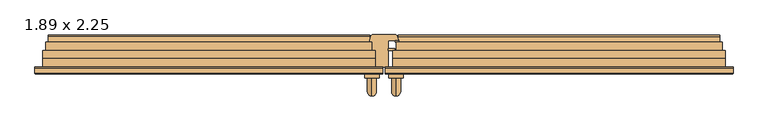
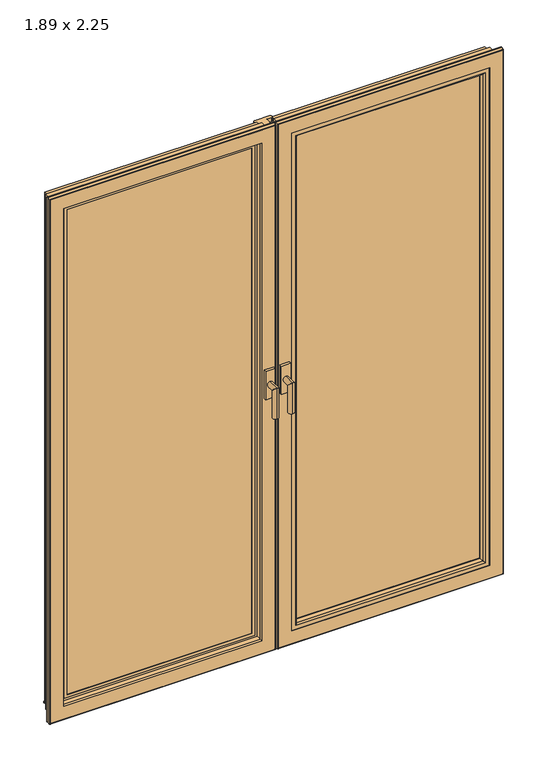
"""IFC4 building model written with IfcOpenShell, lengths in millimetres: door geometry, doorsgealans9000double-vent-door : 1.89 x 2.25."""

from ifc_helpers import new_model, si_unit, point, frame, frame_2d, origin, place, context, project, spatial, polyline, circle_curve, ellipse_curve, trimmed, segment, composite_curve, outline, extrude, source, transform, mapped, element, save
from ifc_brep_helpers import plane_surface, cylinder_surface, advanced_brep


def door_1_89_x_2_25_47e92b67(model_context):
    return source(origin(), model_context, "Body", "SolidModel", [
        advanced_brep(
        [(31.0, -114.6409817, 1146.5), (31.0, -114.6409817, 1123.5), (31.0, -161.1409817, 1146.5), (31.0, -138.1409817, 1123.5), (31.0, -161.1409817, 1018.0), (31.0, -138.1409817, 1018.0)],
        [
            (0, 1, circle_curve(frame((31.0, -114.6409817, 1135.0), z_axis=(0.0, 1.0, 0.0), x_axis=(0.0, 0.0, -1.0)), 11.5)),
            (1, 0, circle_curve(frame((31.0, -114.6409817, 1135.0), z_axis=(0.0, 1.0, 0.0), x_axis=(0.0, 0.0, -1.0)), 11.5)),
            (0, 2),
            (2, 3, ellipse_curve(frame((31.0, -149.6409817, 1135.0), z_axis=(0.0, 0.7071067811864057, 0.7071067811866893), x_axis=(0.0, 0.7071067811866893, -0.7071067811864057)), 16.263456, 11.5)),
            (3, 1),
            (3, 2, ellipse_curve(frame((31.0, -149.6409817, 1135.0), z_axis=(0.0, 0.7071067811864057, 0.7071067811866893), x_axis=(0.0, 0.7071067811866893, -0.7071067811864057)), 16.263456, 11.5)),
            (4, 5, circle_curve(frame((31.0, -149.6409817, 1018.0), z_axis=(0.0, 0.0, -1.0), x_axis=(0.0, 1.0, 0.0)), 11.5)),
            (5, 4, circle_curve(frame((31.0, -149.6409817, 1018.0), z_axis=(0.0, 0.0, -1.0), x_axis=(0.0, 1.0, 0.0)), 11.5)),
            (2, 4),
            (5, 3),
        ],
        [
            plane_surface(frame((31.0, -114.6409817, 1135.0), z_axis=(0.0, 1.0, 0.0), x_axis=(1.0, 0.0, 0.0))),
            cylinder_surface(frame((31.0, -114.6409817, 1135.0), z_axis=(0.0, 1.0, 0.0), x_axis=(0.0, 0.0, -1.0)), 11.5),
            plane_surface(frame((31.0, -149.6409817, 1018.0), z_axis=(0.0, 0.0, -1.0), x_axis=(1.0, 0.0, 0.0))),
            cylinder_surface(frame((31.0, -149.6409817, 1135.0), z_axis=(0.0, 0.0, 1.0), x_axis=(0.0, 1.0, 0.0)), 11.5),
        ],
        [
            (0, [[1, 2]]),
            (1, [[-1, 3, 4, 5]]),
            (1, [[-2, -5, 6, -3]]),
            (2, [[7, 8]]),
            (3, [[-4, 9, -8, 10]]),
            (3, [[-6, -10, -7, -9]]),
        ],
    ),
        extrude(outline(polyline([(49.5, -104.6409817), (49.5, -114.6409817), (12.5, -114.6409817), (12.5, -104.6409817), (49.5, -104.6409817)])), frame((0.0, 0.0, 1076.0), z_axis=(0.0, 0.0, 1.0), x_axis=(1.0, 0.0, 0.0)), (0.0, 0.0, 1.0), 118.0),
        advanced_brep(
        [(-31.0, -114.6409817, 1146.5), (-31.0, -114.6409817, 1123.5), (-31.0, -161.1409817, 1146.5), (-31.0, -138.1409817, 1123.5), (-31.0, -161.1409817, 1018.0), (-31.0, -138.1409817, 1018.0)],
        [
            (0, 1, circle_curve(frame((-31.0, -114.6409817, 1135.0), z_axis=(0.0, 1.0, 0.0), x_axis=(0.0, 0.0, -1.0)), 11.5)),
            (1, 0, circle_curve(frame((-31.0, -114.6409817, 1135.0), z_axis=(0.0, 1.0, 0.0), x_axis=(0.0, 0.0, -1.0)), 11.5)),
            (0, 2),
            (2, 3, ellipse_curve(frame((-31.0, -149.6409817, 1135.0), z_axis=(0.0, 0.7071067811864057, 0.7071067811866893), x_axis=(0.0, 0.7071067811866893, -0.7071067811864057)), 16.263456, 11.5)),
            (3, 1),
            (3, 2, ellipse_curve(frame((-31.0, -149.6409817, 1135.0), z_axis=(0.0, 0.7071067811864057, 0.7071067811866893), x_axis=(0.0, 0.7071067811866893, -0.7071067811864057)), 16.263456, 11.5)),
            (4, 5, circle_curve(frame((-31.0, -149.6409817, 1018.0), z_axis=(0.0, 0.0, -1.0), x_axis=(0.0, 1.0, 0.0)), 11.5)),
            (5, 4, circle_curve(frame((-31.0, -149.6409817, 1018.0), z_axis=(0.0, 0.0, -1.0), x_axis=(0.0, 1.0, 0.0)), 11.5)),
            (2, 4),
            (5, 3),
        ],
        [
            plane_surface(frame((-31.0, -114.6409817, 1135.0), z_axis=(0.0, 1.0, 0.0), x_axis=(1.0, 0.0, 0.0))),
            cylinder_surface(frame((-31.0, -114.6409817, 1135.0), z_axis=(0.0, 1.0, 0.0), x_axis=(0.0, 0.0, -1.0)), 11.5),
            plane_surface(frame((-31.0, -149.6409817, 1018.0), z_axis=(0.0, 0.0, -1.0), x_axis=(1.0, 0.0, 0.0))),
            cylinder_surface(frame((-31.0, -149.6409817, 1135.0), z_axis=(0.0, 0.0, 1.0), x_axis=(0.0, 1.0, 0.0)), 11.5),
        ],
        [
            (0, [[1, 2]]),
            (1, [[-1, 3, 4, 5]]),
            (1, [[-2, -5, 6, -3]]),
            (2, [[7, 8]]),
            (3, [[-4, 9, -8, 10]]),
            (3, [[-6, -10, -7, -9]]),
        ],
    ),
        extrude(outline(polyline([(-12.5, -104.6409817), (-12.5, -114.6409817), (-49.5, -114.6409817), (-49.5, -104.6409817), (-12.5, -104.6409817)])), frame((0.0, 0.0, 1076.0), z_axis=(0.0, 0.0, 1.0), x_axis=(1.0, 0.0, 0.0)), (0.0, 0.0, 1.0), 118.0),
        extrude(outline(polyline([(64.0, -40.1409817), (834.0, -40.1409817), (834.0, -80.1409817), (64.0, -80.1409817), (64.0, -40.1409817)])), frame((0.0, 0.0, 72.9999998), z_axis=(0.0, 0.0, 1.0), x_axis=(1.0, 0.0, 0.0)), (0.0, 0.0, 1.0), 2066.0),
        extrude(outline(composite_curve([segment(trimmed(circle_curve(frame_2d((-9.2376846, 32.7039134)), 4.9967036), [point((-8.3727408, 37.6251855))], [point((-4.2409817, 32.7011467))], False, "CARTESIAN"), True, "CONTINUOUS"), segment(polyline([(-4.2409817, 32.7011467), (-4.2409817, 31.2999998), (-5.8409817, 31.2999998), (-5.8409817, 32.7011467)]), True, "CONTINUOUS"), segment(trimmed(circle_curve(frame_2d((-9.2409817, 32.7011467)), 3.4), [point((-5.8409817, 32.7011467))], [point((-8.6505779, 36.0494931))], True, "CARTESIAN"), True, "CONTINUOUS"), segment(polyline([(-8.6505779, 36.0494931), (-21.9809636, 38.3999998), (-25.5409817, 38.3999998), (-25.5409817, 31.7999998)]), True, "CONTINUOUS"), segment(trimmed(circle_curve(frame_2d((-26.1409817, 31.7999998)), 0.6), [point((-25.5409817, 31.7999998))], [point((-26.7409817, 31.7999998))], False, "CARTESIAN"), True, "CONTINUOUS"), segment(polyline([(-26.7409817, 31.7999998), (-26.7409817, 33.0999998), (-39.9182779, 33.0999998), (-39.9182779, 19.9986183), (-55.7791685, 19.9986183), (-55.7791685, 31.9986183), (-43.5791685, 31.9986183), (-43.5791685, 34.6999998), (-32.4409817, 34.6999998), (-32.4409817, 39.9999998), (-21.884726, 39.9999998), (-8.3727408, 37.6251855)]), True, "CONTINUOUS")], self_intersect=False)), frame((37.0, 0.0, 0.0), z_axis=(1.0, 0.0, 0.0), x_axis=(0.0, 1.0, 0.0)), (0.0, 0.0, 1.0), 824.0),
        extrude(outline(polyline([(86.7999998, 77.8), (86.7999998, 820.2), (2125.1999998, 820.2), (2125.1999998, 77.8), (86.7999998, 77.8)]), holes=[polyline([(2117.9999998, 85.0), (2117.9999998, 813.0), (93.9999998, 813.0), (93.9999998, 85.0), (2117.9999998, 85.0)])]), frame((0.0, -40.1409817, 0.0), z_axis=(0.0, 1.0, 0.0), x_axis=(0.0, 0.0, 1.0)), (0.0, 0.0, 1.0), 3.0),
        extrude(outline(polyline([(82.4987826, 824.5012172), (2129.5012169, 824.5012172), (2129.5012169, 73.4987828), (82.4987826, 73.4987828), (82.4987826, 824.5012172)]), holes=[polyline([(93.9987826, 84.9987828), (2118.0012169, 84.9987828), (2118.0012169, 813.0012172), (93.9987826, 813.0012172), (93.9987826, 84.9987828)])]), frame((0.0, -82.6409817, 0.0), z_axis=(0.0, 1.0, 0.0), x_axis=(0.0, 0.0, 1.0)), (0.0, 0.0, 1.0), 2.5),
        extrude(outline(polyline([(11.9999998, 3.0), (11.9999998, 895.0), (2199.9999998, 895.0), (2199.9999998, 3.0), (11.9999998, 3.0)]), holes=[polyline([(2191.9999998, 11.0), (2191.9999998, 887.0), (19.9999998, 887.0), (19.9999998, 11.0), (2191.9999998, 11.0)])]), frame((0.0, -89.6409817, 0.0), z_axis=(0.0, 1.0, 0.0), x_axis=(0.0, 0.0, 1.0)), (0.0, 0.0, 1.0), 3.5),
        advanced_brep(
        [(76.6543275, -22.1409817, 2126.3456723), (82.4498824, -26.5880674, 2120.5501173), (82.4498824, -26.5880674, 91.4498822), (76.6543275, -22.1409817, 85.6543272), (31.0, -43.6409817, 2171.9999998), (31.0, -22.1409817, 2171.9999998), (31.0, -22.1409817, 39.9999998), (31.0, -43.6409817, 39.9999998), (23.0, -63.6409817, 2179.9999998), (23.0, -43.6409817, 2179.9999998), (23.0, -43.6409817, 31.9999998), (23.0, -63.6409817, 31.9999998), (54.9, -51.1411023, 2148.0999998), (54.9, -63.6409817, 2148.0999998), (54.9, -63.6409817, 63.8999998), (54.9, -51.1411023, 63.8999998), (51.9241825, -37.1409817, 2151.0758172), (51.9241825, -37.1409817, 60.9241823), (85.0, -36.1052357, 2117.9999998), (85.0, -37.1409817, 2117.9999998), (85.0, -37.1409817, 93.9999998), (85.0, -36.1052357, 93.9999998), (815.5501176, -26.5880674, 91.4498822), (821.3456725, -22.1409817, 85.6543272), (867.0, -22.1409817, 39.9999998), (867.0, -43.6409817, 39.9999998), (875.0, -43.6409817, 31.9999998), (875.0, -63.6409817, 31.9999998), (843.1, -63.6409817, 63.8999998), (843.1, -51.1411023, 63.8999998), (846.0758175, -37.1409817, 60.9241823), (813.0, -37.1409817, 93.9999998), (813.0, -36.1052357, 93.9999998), (815.5501176, -26.5880674, 2120.5501173), (821.3456725, -22.1409817, 2126.3456723), (867.0, -22.1409817, 2171.9999998), (867.0, -43.6409817, 2171.9999998), (875.0, -43.6409817, 2179.9999998), (875.0, -63.6409817, 2179.9999998), (843.1, -63.6409817, 2148.0999998), (843.1, -51.1411023, 2148.0999998), (846.0758175, -37.1409817, 2151.0758172), (813.0, -37.1409817, 2117.9999998), (813.0, -36.1052357, 2117.9999998)],
        [
            (0, 1, ellipse_curve(frame((76.6543275, -28.1409817, 2126.3456723), z_axis=(-0.7071067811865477, 0.0, -0.7071067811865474), x_axis=(-0.7071067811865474, 0.0, 0.7071067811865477)), 8.4852814, 6.0)),
            (1, 2),
            (2, 3, ellipse_curve(frame((76.6543275, -28.1409817, 85.6543272), z_axis=(-0.7071067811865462, 0.0, 0.707106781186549), x_axis=(0.7071067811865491, 0.0, 0.7071067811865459)), 8.4852814, 6.0)),
            (3, 0),
            (4, 5),
            (5, 6),
            (6, 7),
            (7, 4),
            (8, 9),
            (9, 10),
            (10, 11),
            (11, 8),
            (12, 13),
            (13, 14),
            (14, 15),
            (15, 12),
            (16, 12),
            (15, 17),
            (17, 16),
            (18, 19),
            (19, 20),
            (20, 21),
            (21, 18),
            (1, 18),
            (21, 2),
            (2, 22),
            (22, 23, ellipse_curve(frame((821.3456725, -28.1409817, 85.6543272), z_axis=(-0.7071067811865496, 0.0, -0.7071067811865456), x_axis=(-0.7071067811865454, 0.0, 0.7071067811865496)), 8.4852814, 6.0)),
            (23, 3),
            (6, 24),
            (24, 25),
            (25, 7),
            (10, 26),
            (26, 27),
            (27, 11),
            (14, 28),
            (28, 29),
            (29, 15),
            (29, 30),
            (30, 17),
            (20, 31),
            (31, 32),
            (32, 21),
            (32, 22),
            (22, 33),
            (33, 34, ellipse_curve(frame((821.3456725, -28.1409817, 2126.3456723), z_axis=(0.7071067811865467, 0.0, -0.7071067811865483), x_axis=(-0.7071067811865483, 0.0, -0.7071067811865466)), 8.4852814, 6.0)),
            (34, 23),
            (24, 35),
            (35, 36),
            (36, 25),
            (26, 37),
            (37, 38),
            (38, 27),
            (28, 39),
            (39, 40),
            (40, 29),
            (40, 41),
            (41, 30),
            (31, 42),
            (42, 43),
            (43, 32),
            (43, 33),
            (33, 1),
            (0, 34),
            (5, 35),
            (4, 36),
            (9, 37),
            (8, 38),
            (13, 39),
            (12, 40),
            (16, 41),
            (19, 42),
            (18, 43),
        ],
        [
            cylinder_surface(frame((76.6543275, -28.1409817, 2199.9999998), z_axis=(0.0, 0.0, 1.0), x_axis=(0.0, 1.0, 0.0)), 6.0),
            plane_surface(frame((31.0, -22.1409817, 2171.9999998), z_axis=(-1.0, 0.0, 0.0), x_axis=(0.0, 0.0, -1.0))),
            plane_surface(frame((23.0, -43.6409817, 2179.9999998), z_axis=(-1.0, 0.0, 0.0), x_axis=(0.0, 0.0, -1.0))),
            plane_surface(frame((54.9, -63.6409817, 2148.0999998), z_axis=(1.0, 0.0, 0.0), x_axis=(0.0, 0.0, -1.0))),
            plane_surface(frame((54.9, -51.1411023, 2148.0999998), z_axis=(0.9781476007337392, 0.20791169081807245, 0.0), x_axis=(0.0, 0.0, -1.0))),
            plane_surface(frame((85.0, -37.1409817, 2117.9999998), z_axis=(1.0, 0.0, 0.0), x_axis=(0.0, 0.0, -1.0))),
            plane_surface(frame((85.0, -36.1052357, 2117.9999998), z_axis=(0.9659258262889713, 0.2588190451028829, 0.0), x_axis=(0.0, 0.0, -1.0))),
            cylinder_surface(frame((3.0, -28.1409817, 85.6543272), z_axis=(-1.0, 0.0, 0.0), x_axis=(0.0, 1.0, 0.0)), 6.0),
            plane_surface(frame((31.0, -22.1409817, 39.9999998), z_axis=(0.0, 0.0, -1.0), x_axis=(1.0, 0.0, 0.0))),
            plane_surface(frame((23.0, -43.6409817, 31.9999998), z_axis=(0.0, 0.0, -1.0), x_axis=(1.0, 0.0, 0.0))),
            plane_surface(frame((54.9, -63.6409817, 63.8999998), z_axis=(0.0, 0.0, 1.0), x_axis=(1.0, 0.0, 0.0))),
            plane_surface(frame((54.9, -51.1411023, 63.8999998), z_axis=(0.0, 0.20791169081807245, 0.9781476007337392), x_axis=(1.0, 0.0, 0.0))),
            plane_surface(frame((85.0, -37.1409817, 93.9999998), z_axis=(0.0, 0.0, 1.0), x_axis=(1.0, 0.0, 0.0))),
            plane_surface(frame((85.0, -36.1052357, 93.9999998), z_axis=(0.0, 0.2588190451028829, 0.9659258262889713), x_axis=(1.0, 0.0, 0.0))),
            cylinder_surface(frame((821.3456725, -28.1409817, 11.9999998), z_axis=(0.0, 0.0, -1.0), x_axis=(0.0, 1.0, 0.0)), 6.0),
            plane_surface(frame((867.0, -22.1409817, 39.9999998), z_axis=(1.0, 0.0, 0.0), x_axis=(0.0, 0.0, 1.0))),
            plane_surface(frame((875.0, -43.6409817, 31.9999998), z_axis=(1.0, 0.0, 0.0), x_axis=(0.0, 0.0, 1.0))),
            plane_surface(frame((843.1, -63.6409817, 63.8999998), z_axis=(-1.0, 0.0, 0.0), x_axis=(0.0, 0.0, 1.0))),
            plane_surface(frame((843.1, -51.1411023, 63.8999998), z_axis=(-0.9781476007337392, 0.20791169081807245, 0.0), x_axis=(0.0, 0.0, 1.0))),
            plane_surface(frame((813.0, -37.1409817, 93.9999998), z_axis=(-1.0, 0.0, 0.0), x_axis=(0.0, 0.0, 1.0))),
            plane_surface(frame((813.0, -36.1052357, 93.9999998), z_axis=(-0.9659258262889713, 0.2588190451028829, 0.0), x_axis=(0.0, 0.0, 1.0))),
            cylinder_surface(frame((895.0, -28.1409817, 2126.3456723), z_axis=(1.0, 0.0, 0.0), x_axis=(0.0, 1.0, 0.0)), 6.0),
            plane_surface(frame((821.3456725, -22.1409817, 2126.3456723), z_axis=(0.0, 1.0, 0.0), x_axis=(-1.0, 0.0, 0.0))),
            plane_surface(frame((867.0, -22.1409817, 2171.9999998), z_axis=(0.0, 0.0, 1.0), x_axis=(-1.0, 0.0, 0.0))),
            plane_surface(frame((867.0, -43.6409817, 2171.9999998), z_axis=(0.0, 1.0, 0.0), x_axis=(-1.0, 0.0, 0.0))),
            plane_surface(frame((875.0, -43.6409817, 2179.9999998), z_axis=(0.0, 0.0, 1.0), x_axis=(-1.0, 0.0, 0.0))),
            plane_surface(frame((875.0, -63.6409817, 2179.9999998), z_axis=(0.0, -1.0, 0.0), x_axis=(-1.0, 0.0, 0.0))),
            plane_surface(frame((843.1, -63.6409817, 2148.0999998), z_axis=(0.0, 0.0, -1.0), x_axis=(-1.0, 0.0, 0.0))),
            plane_surface(frame((843.1, -51.1411023, 2148.0999998), z_axis=(0.0, 0.20791169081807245, -0.9781476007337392), x_axis=(-1.0, 0.0, 0.0))),
            plane_surface(frame((814.0, -37.1409817, 2118.9999998), z_axis=(0.0, -1.0, 0.0), x_axis=(-1.0, 0.0, 0.0))),
            plane_surface(frame((813.0, -37.1409817, 2117.9999998), z_axis=(0.0, 0.0, -1.0), x_axis=(-1.0, 0.0, 0.0))),
            plane_surface(frame((813.0, -36.1052357, 2117.9999998), z_axis=(0.0, 0.2588190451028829, -0.9659258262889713), x_axis=(-1.0, 0.0, 0.0))),
        ],
        [
            (0, [[1, 2, 3, 4]]),
            (1, [[5, 6, 7, 8]]),
            (2, [[9, 10, 11, 12]]),
            (3, [[13, 14, 15, 16]]),
            (4, [[17, -16, 18, 19]]),
            (5, [[20, 21, 22, 23]]),
            (6, [[24, -23, 25, -2]]),
            (7, [[-3, 26, 27, 28]]),
            (8, [[-7, 29, 30, 31]]),
            (9, [[-11, 32, 33, 34]]),
            (10, [[-15, 35, 36, 37]]),
            (11, [[-18, -37, 38, 39]]),
            (12, [[-22, 40, 41, 42]]),
            (13, [[-25, -42, 43, -26]]),
            (14, [[-27, 44, 45, 46]]),
            (15, [[-30, 47, 48, 49]]),
            (16, [[-33, 50, 51, 52]]),
            (17, [[-36, 53, 54, 55]]),
            (18, [[-38, -55, 56, 57]]),
            (19, [[-41, 58, 59, 60]]),
            (20, [[-43, -60, 61, -44]]),
            (21, [[-45, 62, -1, 63]]),
            (22, [[64, -47, -29, -6], [-28, -46, -63, -4]]),
            (23, [[-48, -64, -5, 65]]),
            (24, [[66, -50, -32, -10], [-31, -49, -65, -8]]),
            (25, [[-51, -66, -9, 67]]),
            (26, [[-34, -52, -67, -12], [68, -53, -35, -14]]),
            (27, [[-54, -68, -13, 69]]),
            (28, [[-56, -69, -17, 70]]),
            (29, [[-39, -57, -70, -19], [71, -58, -40, -21]]),
            (30, [[-59, -71, -20, 72]]),
            (31, [[-61, -72, -24, -62]]),
        ],
    ),
        advanced_brep(
        [(59.0, -93.3909817, 2143.9999998), (59.0, -104.6409817, 2143.9999998), (59.0, -104.6409817, 67.9999998), (59.0, -93.3909817, 67.9999998), (54.9, -63.6409817, 2148.0999998), (54.9, -93.3909817, 2148.0999998), (54.9, -93.3909817, 63.8999998), (54.9, -63.6409817, 63.8999998), (23.0, -89.6409817, 2179.9999998), (23.0, -63.6409817, 2179.9999998), (23.0, -63.6409817, 31.9999998), (23.0, -89.6409817, 31.9999998), (3.0, -102.1409817, 2199.9999998), (3.0, -89.6409817, 2199.9999998), (3.0, -89.6409817, 11.9999998), (3.0, -102.1409817, 11.9999998), (5.5, -104.6409817, 2197.4999998), (5.5, -104.6409817, 14.4999998), (839.0, -104.6409817, 67.9999998), (839.0, -93.3909817, 67.9999998), (843.1, -93.3909817, 63.8999998), (843.1, -63.6409817, 63.8999998), (875.0, -63.6409817, 31.9999998), (875.0, -89.6409817, 31.9999998), (895.0, -89.6409817, 11.9999998), (895.0, -102.1409817, 11.9999998), (892.5, -104.6409817, 14.4999998), (839.0, -104.6409817, 2143.9999998), (839.0, -93.3909817, 2143.9999998), (843.1, -93.3909817, 2148.0999998), (843.1, -63.6409817, 2148.0999998), (875.0, -63.6409817, 2179.9999998), (875.0, -89.6409817, 2179.9999998), (895.0, -89.6409817, 2199.9999998), (895.0, -102.1409817, 2199.9999998), (892.5, -104.6409817, 2197.4999998)],
        [
            (0, 1),
            (1, 2),
            (2, 3),
            (3, 0),
            (4, 5),
            (5, 6),
            (6, 7),
            (7, 4),
            (8, 9),
            (9, 10),
            (10, 11),
            (11, 8),
            (12, 13),
            (13, 14),
            (14, 15),
            (15, 12),
            (16, 12, ellipse_curve(frame((5.5, -102.1409817, 2197.4999998), z_axis=(-0.7071067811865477, 0.0, -0.7071067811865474), x_axis=(-0.7071067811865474, 0.0, 0.7071067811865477)), 3.5355339, 2.5)),
            (15, 17, ellipse_curve(frame((5.5, -102.1409817, 14.4999998), z_axis=(-0.7071067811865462, 0.0, 0.707106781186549), x_axis=(0.7071067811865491, 0.0, 0.7071067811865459)), 3.5355339, 2.5)),
            (17, 16),
            (2, 18),
            (18, 19),
            (19, 3),
            (6, 20),
            (20, 21),
            (21, 7),
            (10, 22),
            (22, 23),
            (23, 11),
            (14, 24),
            (24, 25),
            (25, 15),
            (25, 26, ellipse_curve(frame((892.5, -102.1409817, 14.4999998), z_axis=(-0.7071067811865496, 0.0, -0.7071067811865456), x_axis=(-0.7071067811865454, 0.0, 0.7071067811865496)), 3.5355339, 2.5)),
            (26, 17),
            (18, 27),
            (27, 28),
            (28, 19),
            (20, 29),
            (29, 30),
            (30, 21),
            (22, 31),
            (31, 32),
            (32, 23),
            (24, 33),
            (33, 34),
            (34, 25),
            (34, 35, ellipse_curve(frame((892.5, -102.1409817, 2197.4999998), z_axis=(0.7071067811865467, 0.0, -0.7071067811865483), x_axis=(-0.7071067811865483, 0.0, -0.7071067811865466)), 3.5355339, 2.5)),
            (35, 26),
            (35, 16),
            (1, 27),
            (0, 28),
            (5, 29),
            (4, 30),
            (9, 31),
            (8, 32),
            (13, 33),
            (12, 34),
        ],
        [
            plane_surface(frame((59.0, -104.6409817, 2143.9999998), z_axis=(1.0, 0.0, 0.0), x_axis=(0.0, 0.0, -1.0))),
            plane_surface(frame((54.9, -93.3909817, 2148.0999998), z_axis=(1.0, 0.0, 0.0), x_axis=(0.0, 0.0, -1.0))),
            plane_surface(frame((23.0, -63.6409817, 2179.9999998), z_axis=(-1.0, 0.0, 0.0), x_axis=(0.0, 0.0, -1.0))),
            plane_surface(frame((3.0, -89.6409817, 2199.9999998), z_axis=(-1.0, 0.0, 0.0), x_axis=(0.0, 0.0, -1.0))),
            cylinder_surface(frame((5.5, -102.1409817, 2199.9999998), z_axis=(0.0, 0.0, 1.0), x_axis=(0.0, -1.0, 0.0)), 2.5),
            plane_surface(frame((59.0, -104.6409817, 67.9999998), z_axis=(0.0, 0.0, 1.0), x_axis=(1.0, 0.0, 0.0))),
            plane_surface(frame((54.9, -93.3909817, 63.8999998), z_axis=(0.0, 0.0, 1.0), x_axis=(1.0, 0.0, 0.0))),
            plane_surface(frame((23.0, -63.6409817, 31.9999998), z_axis=(0.0, 0.0, -1.0), x_axis=(1.0, 0.0, 0.0))),
            plane_surface(frame((3.0, -89.6409817, 11.9999998), z_axis=(0.0, 0.0, -1.0), x_axis=(1.0, 0.0, 0.0))),
            cylinder_surface(frame((3.0, -102.1409817, 14.4999998), z_axis=(-1.0, 0.0, 0.0), x_axis=(0.0, -1.0, 0.0)), 2.5),
            plane_surface(frame((839.0, -104.6409817, 67.9999998), z_axis=(-1.0, 0.0, 0.0), x_axis=(0.0, 0.0, 1.0))),
            plane_surface(frame((843.1, -93.3909817, 63.8999998), z_axis=(-1.0, 0.0, 0.0), x_axis=(0.0, 0.0, 1.0))),
            plane_surface(frame((875.0, -63.6409817, 31.9999998), z_axis=(1.0, 0.0, 0.0), x_axis=(0.0, 0.0, 1.0))),
            plane_surface(frame((895.0, -89.6409817, 11.9999998), z_axis=(1.0, 0.0, 0.0), x_axis=(0.0, 0.0, 1.0))),
            cylinder_surface(frame((892.5, -102.1409817, 11.9999998), z_axis=(0.0, 0.0, -1.0), x_axis=(0.0, -1.0, 0.0)), 2.5),
            plane_surface(frame((892.5, -104.6409817, 2197.4999998), z_axis=(0.0, -1.0, 0.0), x_axis=(-1.0, 0.0, 0.0))),
            plane_surface(frame((839.0, -104.6409817, 2143.9999998), z_axis=(0.0, 0.0, -1.0), x_axis=(-1.0, 0.0, 0.0))),
            plane_surface(frame((839.0, -93.3909817, 2143.9999998), z_axis=(0.0, 1.0, 0.0), x_axis=(-1.0, 0.0, 0.0))),
            plane_surface(frame((843.1, -93.3909817, 2148.0999998), z_axis=(0.0, 0.0, -1.0), x_axis=(-1.0, 0.0, 0.0))),
            plane_surface(frame((843.1, -63.6409817, 2148.0999998), z_axis=(0.0, 1.0, 0.0), x_axis=(-1.0, 0.0, 0.0))),
            plane_surface(frame((875.0, -63.6409817, 2179.9999998), z_axis=(0.0, 0.0, 1.0), x_axis=(-1.0, 0.0, 0.0))),
            plane_surface(frame((894.0, -89.6409817, 2198.9999998), z_axis=(0.0, 1.0, 0.0), x_axis=(-1.0, 0.0, 0.0))),
            plane_surface(frame((895.0, -89.6409817, 2199.9999998), z_axis=(0.0, 0.0, 1.0), x_axis=(-1.0, 0.0, 0.0))),
            cylinder_surface(frame((895.0, -102.1409817, 2197.4999998), z_axis=(1.0, 0.0, 0.0), x_axis=(0.0, -1.0, 0.0)), 2.5),
        ],
        [
            (0, [[1, 2, 3, 4]]),
            (1, [[5, 6, 7, 8]]),
            (2, [[9, 10, 11, 12]]),
            (3, [[13, 14, 15, 16]]),
            (4, [[17, -16, 18, 19]]),
            (5, [[-3, 20, 21, 22]]),
            (6, [[-7, 23, 24, 25]]),
            (7, [[-11, 26, 27, 28]]),
            (8, [[-15, 29, 30, 31]]),
            (9, [[-18, -31, 32, 33]]),
            (10, [[-21, 34, 35, 36]]),
            (11, [[-24, 37, 38, 39]]),
            (12, [[-27, 40, 41, 42]]),
            (13, [[-30, 43, 44, 45]]),
            (14, [[-32, -45, 46, 47]]),
            (15, [[-33, -47, 48, -19], [49, -34, -20, -2]]),
            (16, [[-35, -49, -1, 50]]),
            (17, [[51, -37, -23, -6], [-22, -36, -50, -4]]),
            (18, [[-38, -51, -5, 52]]),
            (19, [[53, -40, -26, -10], [-25, -39, -52, -8]]),
            (20, [[-41, -53, -9, 54]]),
            (21, [[55, -43, -29, -14], [-28, -42, -54, -12]]),
            (22, [[-44, -55, -13, 56]]),
            (23, [[-46, -56, -17, -48]]),
        ],
    ),
        advanced_brep(
        [(81.1040168, -98.693896, 2121.8959829), (75.3084619, -103.1409817, 2127.6915379), (75.3084619, -103.1409817, 84.3084616), (81.1040168, -98.693896, 90.1040166), (84.9987828, -84.1584314, 2118.0012169), (84.9987828, -84.1584314, 93.9987826), (84.9987828, -82.6409817, 2118.0012169), (84.9987828, -82.6409817, 93.9987826), (71.8567747, -87.6409817, 2131.143225), (73.1965207, -82.6409817, 2129.803479), (73.1965207, -82.6409817, 82.1965205), (71.8567747, -87.6409817, 80.8567745), (59.0, -87.6409817, 2143.9999998), (59.0, -87.6409817, 67.9999998), (59.0, -103.1409817, 67.9999998), (59.0, -103.1409817, 2143.9999998), (822.6915381, -103.1409817, 84.3084616), (816.8959832, -98.693896, 90.1040166), (813.0012172, -84.1584314, 93.9987826), (813.0012172, -82.6409817, 93.9987826), (824.8034793, -82.6409817, 82.1965205), (826.1432253, -87.6409817, 80.8567745), (839.0, -87.6409817, 67.9999998), (839.0, -103.1409817, 67.9999998), (822.6915381, -103.1409817, 2127.6915379), (816.8959832, -98.693896, 2121.8959829), (813.0012172, -84.1584314, 2118.0012169), (813.0012172, -82.6409817, 2118.0012169), (824.8034793, -82.6409817, 2129.803479), (826.1432253, -87.6409817, 2131.143225), (839.0, -87.6409817, 2143.9999998), (839.0, -103.1409817, 2143.9999998)],
        [
            (0, 1, ellipse_curve(frame((75.3084619, -97.1409817, 2127.6915379), z_axis=(-0.7071067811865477, 0.0, -0.7071067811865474), x_axis=(-0.7071067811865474, 0.0, 0.7071067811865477)), 8.4852814, 6.0)),
            (1, 2),
            (2, 3, ellipse_curve(frame((75.3084619, -97.1409817, 84.3084616), z_axis=(-0.7071067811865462, 0.0, 0.707106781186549), x_axis=(0.7071067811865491, 0.0, 0.7071067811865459)), 8.4852814, 6.0)),
            (3, 0),
            (4, 0),
            (3, 5),
            (5, 4),
            (6, 4),
            (5, 7),
            (7, 6),
            (8, 9),
            (9, 10),
            (10, 11),
            (11, 8),
            (12, 13),
            (13, 14),
            (14, 15),
            (15, 12),
            (2, 16),
            (16, 17, ellipse_curve(frame((822.6915381, -97.1409817, 84.3084616), z_axis=(-0.7071067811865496, 0.0, -0.7071067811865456), x_axis=(-0.7071067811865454, 0.0, 0.7071067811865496)), 8.4852814, 6.0)),
            (17, 3),
            (17, 18),
            (18, 5),
            (18, 19),
            (19, 7),
            (10, 20),
            (20, 21),
            (21, 11),
            (13, 22),
            (22, 23),
            (23, 14),
            (16, 24),
            (24, 25, ellipse_curve(frame((822.6915381, -97.1409817, 2127.6915379), z_axis=(0.7071067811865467, 0.0, -0.7071067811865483), x_axis=(-0.7071067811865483, 0.0, -0.7071067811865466)), 8.4852814, 6.0)),
            (25, 17),
            (25, 26),
            (26, 18),
            (26, 27),
            (27, 19),
            (20, 28),
            (28, 29),
            (29, 21),
            (22, 30),
            (30, 31),
            (31, 23),
            (24, 1),
            (0, 25),
            (4, 26),
            (6, 27),
            (9, 28),
            (8, 29),
            (12, 30),
            (15, 31),
        ],
        [
            cylinder_surface(frame((75.3084619, -97.1409817, 2199.9999998), z_axis=(0.0, 0.0, 1.0), x_axis=(0.9659258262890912, -0.2588190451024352, 0.0)), 6.0),
            plane_surface(frame((81.1040168, -98.693896, 2121.8959829), z_axis=(0.9659258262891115, -0.25881904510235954, 0.0), x_axis=(0.0, 0.0, -1.0))),
            plane_surface(frame((84.9987828, -84.1584314, 2118.0012169), z_axis=(1.0, 0.0, 0.0), x_axis=(0.0, 0.0, -1.0))),
            plane_surface(frame((73.1965207, -82.6409817, 2129.803479), z_axis=(-0.9659258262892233, 0.2588190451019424, 0.0), x_axis=(0.0, 0.0, -1.0))),
            plane_surface(frame((59.0, -102.1409817, 2143.9999998), z_axis=(-1.0, 0.0, 0.0), x_axis=(0.0, 0.0, -1.0))),
            cylinder_surface(frame((3.0, -97.1409817, 84.3084616), z_axis=(-1.0, 0.0, 0.0), x_axis=(0.0, -0.2588190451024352, 0.9659258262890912)), 6.0),
            plane_surface(frame((81.1040168, -98.693896, 90.1040166), z_axis=(0.0, -0.25881904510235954, 0.9659258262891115), x_axis=(1.0, 0.0, 0.0))),
            plane_surface(frame((84.9987828, -84.1584314, 93.9987826), z_axis=(0.0, 0.0, 1.0), x_axis=(1.0, 0.0, 0.0))),
            plane_surface(frame((73.1965207, -82.6409817, 82.1965205), z_axis=(0.0, 0.2588190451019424, -0.9659258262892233), x_axis=(1.0, 0.0, 0.0))),
            plane_surface(frame((59.0, -102.1409817, 67.9999998), z_axis=(0.0, 0.0, -1.0), x_axis=(1.0, 0.0, 0.0))),
            cylinder_surface(frame((822.6915381, -97.1409817, 11.9999998), z_axis=(0.0, 0.0, -1.0), x_axis=(-0.9659258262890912, -0.2588190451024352, 0.0)), 6.0),
            plane_surface(frame((816.8959832, -98.693896, 90.1040166), z_axis=(-0.9659258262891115, -0.25881904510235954, 0.0), x_axis=(0.0, 0.0, 1.0))),
            plane_surface(frame((813.0012172, -84.1584314, 93.9987826), z_axis=(-1.0, 0.0, 0.0), x_axis=(0.0, 0.0, 1.0))),
            plane_surface(frame((824.8034793, -82.6409817, 82.1965205), z_axis=(0.9659258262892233, 0.2588190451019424, 0.0), x_axis=(0.0, 0.0, 1.0))),
            plane_surface(frame((839.0, -102.1409817, 67.9999998), z_axis=(1.0, 0.0, 0.0), x_axis=(0.0, 0.0, 1.0))),
            cylinder_surface(frame((895.0, -97.1409817, 2127.6915379), z_axis=(1.0, 0.0, 0.0), x_axis=(0.0, -0.2588190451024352, -0.9659258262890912)), 6.0),
            plane_surface(frame((816.8959832, -98.693896, 2121.8959829), z_axis=(0.0, -0.25881904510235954, -0.9659258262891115), x_axis=(-1.0, 0.0, 0.0))),
            plane_surface(frame((813.0012172, -84.1584314, 2118.0012169), z_axis=(0.0, 0.0, -1.0), x_axis=(-1.0, 0.0, 0.0))),
            plane_surface(frame((813.0012172, -82.6409817, 2118.0012169), z_axis=(0.0, 1.0, 0.0), x_axis=(-1.0, 0.0, 0.0))),
            plane_surface(frame((824.8034793, -82.6409817, 2129.803479), z_axis=(0.0, 0.2588190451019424, 0.9659258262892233), x_axis=(-1.0, 0.0, 0.0))),
            plane_surface(frame((826.1432253, -87.6409817, 2131.143225), z_axis=(0.0, 1.0, 0.0), x_axis=(-1.0, 0.0, 0.0))),
            plane_surface(frame((839.0, -102.1409817, 2143.9999998), z_axis=(0.0, 0.0, 1.0), x_axis=(-1.0, 0.0, 0.0))),
            plane_surface(frame((839.0, -103.1409817, 2143.9999998), z_axis=(0.0, -1.0, 0.0), x_axis=(-1.0, 0.0, 0.0))),
        ],
        [
            (0, [[1, 2, 3, 4]]),
            (1, [[5, -4, 6, 7]]),
            (2, [[8, -7, 9, 10]]),
            (3, [[11, 12, 13, 14]]),
            (4, [[15, 16, 17, 18]]),
            (5, [[-3, 19, 20, 21]]),
            (6, [[-6, -21, 22, 23]]),
            (7, [[-9, -23, 24, 25]]),
            (8, [[-13, 26, 27, 28]]),
            (9, [[-16, 29, 30, 31]]),
            (10, [[-20, 32, 33, 34]]),
            (11, [[-22, -34, 35, 36]]),
            (12, [[-24, -36, 37, 38]]),
            (13, [[-27, 39, 40, 41]]),
            (14, [[-30, 42, 43, 44]]),
            (15, [[-33, 45, -1, 46]]),
            (16, [[-35, -46, -5, 47]]),
            (17, [[-37, -47, -8, 48]]),
            (18, [[49, -39, -26, -12], [-25, -38, -48, -10]]),
            (19, [[-40, -49, -11, 50]]),
            (20, [[51, -42, -29, -15], [-28, -41, -50, -14]]),
            (21, [[-43, -51, -18, 52]]),
            (22, [[-31, -44, -52, -17], [-45, -32, -19, -2]]),
        ],
    ),
        extrude(outline(polyline([(-834.0, -40.1409817), (-64.0, -40.1409817), (-64.0, -80.1409817), (-834.0, -80.1409817), (-834.0, -40.1409817)])), frame((0.0, 0.0, 72.9999998), z_axis=(0.0, 0.0, 1.0), x_axis=(1.0, 0.0, 0.0)), (0.0, 0.0, 1.0), 2066.0),
        extrude(outline(composite_curve([segment(trimmed(circle_curve(frame_2d((-9.2376846, 32.7039134)), 4.9967036), [point((-8.3727408, 37.6251855))], [point((-4.2409817, 32.7011467))], False, "CARTESIAN"), True, "CONTINUOUS"), segment(polyline([(-4.2409817, 32.7011467), (-4.2409817, 31.2999998), (-5.8409817, 31.2999998), (-5.8409817, 32.7011467)]), True, "CONTINUOUS"), segment(trimmed(circle_curve(frame_2d((-9.2409817, 32.7011467)), 3.4), [point((-5.8409817, 32.7011467))], [point((-8.6505779, 36.0494931))], True, "CARTESIAN"), True, "CONTINUOUS"), segment(polyline([(-8.6505779, 36.0494931), (-21.9809636, 38.3999998), (-25.5409817, 38.3999998), (-25.5409817, 31.7999998)]), True, "CONTINUOUS"), segment(trimmed(circle_curve(frame_2d((-26.1409817, 31.7999998)), 0.6), [point((-25.5409817, 31.7999998))], [point((-26.7409817, 31.7999998))], False, "CARTESIAN"), True, "CONTINUOUS"), segment(polyline([(-26.7409817, 31.7999998), (-26.7409817, 33.0999998), (-39.9182779, 33.0999998), (-39.9182779, 19.9986183), (-55.7791685, 19.9986183), (-55.7791685, 31.9986183), (-43.5791685, 31.9986183), (-43.5791685, 34.6999998), (-32.4409817, 34.6999998), (-32.4409817, 39.9999998), (-21.884726, 39.9999998), (-8.3727408, 37.6251855)]), True, "CONTINUOUS")], self_intersect=False)), frame((-861.0, 0.0, 0.0), z_axis=(1.0, 0.0, 0.0), x_axis=(0.0, 1.0, 0.0)), (0.0, 0.0, 1.0), 824.0),
        extrude(outline(polyline([(28.0, -38.5409817), (28.0, -43.6409817), (11.0, -43.6409817), (11.0, -38.5409817), (28.0, -38.5409817)])), frame((0.0, 0.0, 19.9999998), z_axis=(0.0, 0.0, 1.0), x_axis=(1.0, 0.0, 0.0)), (0.0, 0.0, 1.0), 2146.0),
        extrude(outline(polyline([(28.4784086, -22.1409817), (28.4784086, -18.6409817), (37.2784086, -18.6409817), (37.2784086, -22.1409817), (28.4784086, -22.1409817)])), frame((0.0, 0.0, 19.9999998), z_axis=(0.0, 0.0, 1.0), x_axis=(1.0, 0.0, 0.0)), (0.0, 0.0, 1.0), 2146.0),
        extrude(outline(polyline([(86.7999998, -77.8), (2125.1999998, -77.8), (2125.1999998, -820.2), (86.7999998, -820.2), (86.7999998, -77.8)]), holes=[polyline([(93.9999998, -813.0), (2117.9999998, -813.0), (2117.9999998, -85.0), (93.9999998, -85.0), (93.9999998, -813.0)])]), frame((0.0, -40.1409817, 0.0), z_axis=(0.0, 1.0, 0.0), x_axis=(0.0, 0.0, 1.0)), (0.0, 0.0, 1.0), 3.0),
        extrude(outline(polyline([(11.9999998, -895.0), (11.9999998, -3.0), (2199.9999998, -3.0), (2199.9999998, -895.0), (11.9999998, -895.0)]), holes=[polyline([(2191.9999998, -887.0), (2191.9999998, -11.0), (19.9999998, -11.0), (19.9999998, -887.0), (2191.9999998, -887.0)])]), frame((0.0, -89.6409817, 0.0), z_axis=(0.0, 1.0, 0.0), x_axis=(0.0, 0.0, 1.0)), (0.0, 0.0, 1.0), 3.5),
        extrude(outline(polyline([(82.4987826, -73.4987828), (2129.5012169, -73.4987828), (2129.5012169, -824.5012172), (82.4987826, -824.5012172), (82.4987826, -73.4987828)]), holes=[polyline([(93.9987826, -813.0012172), (2118.0012169, -813.0012172), (2118.0012169, -84.9987828), (93.9987826, -84.9987828), (93.9987826, -813.0012172)])]), frame((0.0, -82.6409817, 0.0), z_axis=(0.0, 1.0, 0.0), x_axis=(0.0, 0.0, 1.0)), (0.0, 0.0, 1.0), 2.5),
        extrude(outline(composite_curve([segment(polyline([(-23.0, -86.1409817), (-23.0, -43.6409817), (-31.0, -43.6409817), (-31.0, -22.249901), (-37.0, -22.249901), (-37.0, -17.7201139), (-34.436739, -8.0880674)]), True, "CONTINUOUS"), segment(trimmed(circle_curve(frame_2d((-28.6514149, -9.6276463)), 5.9866751), [point((-34.436739, -8.0880674))], [point((-28.6402381, -3.6409817))], False, "CARTESIAN"), True, "CONTINUOUS"), segment(polyline([(-28.6402381, -3.6409817), (28.6552087, -3.6409817)]), True, "CONTINUOUS"), segment(trimmed(circle_curve(frame_2d((28.6552087, -9.6409817)), 6.0), [point((28.6552087, -3.6409817))], [point((34.4507637, -8.0880674))], False, "CARTESIAN"), True, "CONTINUOUS"), segment(polyline([(34.4507637, -8.0880674), (37.2784086, -18.6409817), (11.0, -18.6409817), (11.0, -86.1409817), (-23.0, -86.1409817)]), True, "CONTINUOUS")], self_intersect=False)), frame((0.0, 0.0, 19.9999998), z_axis=(0.0, 0.0, 1.0), x_axis=(1.0, 0.0, 0.0)), (0.0, 0.0, 1.0), 2146.0),
        advanced_brep(
        [(-821.3456725, -22.1409817, 2126.3456723), (-815.5501176, -26.5880674, 2120.5501173), (-815.5501176, -26.5880674, 91.4498822), (-821.3456725, -22.1409817, 85.6543272), (-867.0, -43.6409817, 2171.9999998), (-867.0, -22.1409817, 2171.9999998), (-867.0, -22.1409817, 39.9999998), (-867.0, -43.6409817, 39.9999998), (-875.0, -63.6409817, 2179.9999998), (-875.0, -43.6409817, 2179.9999998), (-875.0, -43.6409817, 31.9999998), (-875.0, -63.6409817, 31.9999998), (-843.1, -51.1411023, 2148.0999998), (-843.1, -63.6409817, 2148.0999998), (-843.1, -63.6409817, 63.8999998), (-843.1, -51.1411023, 63.8999998), (-846.0758175, -37.1409817, 2151.0758172), (-846.0758175, -37.1409817, 60.9241823), (-813.0, -36.1052357, 2117.9999998), (-813.0, -37.1409817, 2117.9999998), (-813.0, -37.1409817, 93.9999998), (-813.0, -36.1052357, 93.9999998), (-82.4498824, -26.5880674, 91.4498822), (-76.6543275, -22.1409817, 85.6543272), (-31.0, -22.1409817, 39.9999998), (-31.0, -43.6409817, 39.9999998), (-23.0, -43.6409817, 31.9999998), (-23.0, -63.6409817, 31.9999998), (-54.9, -63.6409817, 63.8999998), (-54.9, -51.1411023, 63.8999998), (-51.9241825, -37.1409817, 60.9241823), (-85.0, -37.1409817, 93.9999998), (-85.0, -36.1052357, 93.9999998), (-82.4498824, -26.5880674, 2120.5501173), (-76.6543275, -22.1409817, 2126.3456723), (-31.0, -22.1409817, 2171.9999998), (-31.0, -43.6409817, 2171.9999998), (-23.0, -43.6409817, 2179.9999998), (-23.0, -63.6409817, 2179.9999998), (-54.9, -63.6409817, 2148.0999998), (-54.9, -51.1411023, 2148.0999998), (-51.9241825, -37.1409817, 2151.0758172), (-85.0, -37.1409817, 2117.9999998), (-85.0, -36.1052357, 2117.9999998)],
        [
            (0, 1, ellipse_curve(frame((-821.3456725, -28.1409817, 2126.3456723), z_axis=(-0.707106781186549, 0.0, -0.7071067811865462), x_axis=(-0.7071067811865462, 0.0, 0.7071067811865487)), 8.4852814, 6.0)),
            (1, 2),
            (2, 3, ellipse_curve(frame((-821.3456725, -28.1409817, 85.6543272), z_axis=(-0.7071067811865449, 0.0, 0.70710678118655), x_axis=(0.7071067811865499, 0.0, 0.707106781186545)), 8.4852814, 6.0)),
            (3, 0),
            (4, 5),
            (5, 6),
            (6, 7),
            (7, 4),
            (8, 9),
            (9, 10),
            (10, 11),
            (11, 8),
            (12, 13),
            (13, 14),
            (14, 15),
            (15, 12),
            (16, 12),
            (15, 17),
            (17, 16),
            (18, 19),
            (19, 20),
            (20, 21),
            (21, 18),
            (1, 18),
            (21, 2),
            (2, 22),
            (22, 23, ellipse_curve(frame((-76.6543275, -28.1409817, 85.6543272), z_axis=(-0.7071067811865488, 0.0, -0.7071067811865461), x_axis=(-0.7071067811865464, 0.0, 0.7071067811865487)), 8.4852814, 6.0)),
            (23, 3),
            (6, 24),
            (24, 25),
            (25, 7),
            (10, 26),
            (26, 27),
            (27, 11),
            (14, 28),
            (28, 29),
            (29, 15),
            (29, 30),
            (30, 17),
            (20, 31),
            (31, 32),
            (32, 21),
            (32, 22),
            (22, 33),
            (33, 34, ellipse_curve(frame((-76.6543275, -28.1409817, 2126.3456723), z_axis=(0.7071067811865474, 0.0, -0.7071067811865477), x_axis=(-0.7071067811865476, 0.0, -0.7071067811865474)), 8.4852814, 6.0)),
            (34, 23),
            (24, 35),
            (35, 36),
            (36, 25),
            (26, 37),
            (37, 38),
            (38, 27),
            (28, 39),
            (39, 40),
            (40, 29),
            (40, 41),
            (41, 30),
            (31, 42),
            (42, 43),
            (43, 32),
            (43, 33),
            (33, 1),
            (0, 34),
            (5, 35),
            (4, 36),
            (9, 37),
            (8, 38),
            (13, 39),
            (12, 40),
            (16, 41),
            (19, 42),
            (18, 43),
        ],
        [
            cylinder_surface(frame((-821.3456725, -28.1409817, 2199.9999998), z_axis=(0.0, 0.0, 1.0), x_axis=(0.0, 1.0, 0.0)), 6.0),
            plane_surface(frame((-867.0, -22.1409817, 2171.9999998), z_axis=(-1.0, 0.0, 0.0), x_axis=(0.0, 0.0, -1.0))),
            plane_surface(frame((-875.0, -43.6409817, 2179.9999998), z_axis=(-1.0, 0.0, 0.0), x_axis=(0.0, 0.0, -1.0))),
            plane_surface(frame((-843.1, -63.6409817, 2148.0999998), z_axis=(1.0, 0.0, 0.0), x_axis=(0.0, 0.0, -1.0))),
            plane_surface(frame((-843.1, -51.1411023, 2148.0999998), z_axis=(0.9781476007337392, 0.20791169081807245, 0.0), x_axis=(0.0, 0.0, -1.0))),
            plane_surface(frame((-813.0, -37.1409817, 2117.9999998), z_axis=(1.0, 0.0, 0.0), x_axis=(0.0, 0.0, -1.0))),
            plane_surface(frame((-813.0, -36.1052357, 2117.9999998), z_axis=(0.9659258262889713, 0.2588190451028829, 0.0), x_axis=(0.0, 0.0, -1.0))),
            cylinder_surface(frame((-895.0, -28.1409817, 85.6543272), z_axis=(-1.0, 0.0, 0.0), x_axis=(0.0, 1.0, 0.0)), 6.0),
            plane_surface(frame((-867.0, -22.1409817, 39.9999998), z_axis=(0.0, 0.0, -1.0), x_axis=(1.0, 0.0, 0.0))),
            plane_surface(frame((-875.0, -43.6409817, 31.9999998), z_axis=(0.0, 0.0, -1.0), x_axis=(1.0, 0.0, 0.0))),
            plane_surface(frame((-843.1, -63.6409817, 63.8999998), z_axis=(0.0, 0.0, 1.0), x_axis=(1.0, 0.0, 0.0))),
            plane_surface(frame((-843.1, -51.1411023, 63.8999998), z_axis=(0.0, 0.20791169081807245, 0.9781476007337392), x_axis=(1.0, 0.0, 0.0))),
            plane_surface(frame((-813.0, -37.1409817, 93.9999998), z_axis=(0.0, 0.0, 1.0), x_axis=(1.0, 0.0, 0.0))),
            plane_surface(frame((-813.0, -36.1052357, 93.9999998), z_axis=(0.0, 0.2588190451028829, 0.9659258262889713), x_axis=(1.0, 0.0, 0.0))),
            cylinder_surface(frame((-76.6543275, -28.1409817, 11.9999998), z_axis=(0.0, 0.0, -1.0), x_axis=(0.0, 1.0, 0.0)), 6.0),
            plane_surface(frame((-31.0, -22.1409817, 39.9999998), z_axis=(1.0, 0.0, 0.0), x_axis=(0.0, 0.0, 1.0))),
            plane_surface(frame((-23.0, -43.6409817, 31.9999998), z_axis=(1.0, 0.0, 0.0), x_axis=(0.0, 0.0, 1.0))),
            plane_surface(frame((-54.9, -63.6409817, 63.8999998), z_axis=(-1.0, 0.0, 0.0), x_axis=(0.0, 0.0, 1.0))),
            plane_surface(frame((-54.9, -51.1411023, 63.8999998), z_axis=(-0.9781476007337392, 0.20791169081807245, 0.0), x_axis=(0.0, 0.0, 1.0))),
            plane_surface(frame((-85.0, -37.1409817, 93.9999998), z_axis=(-1.0, 0.0, 0.0), x_axis=(0.0, 0.0, 1.0))),
            plane_surface(frame((-85.0, -36.1052357, 93.9999998), z_axis=(-0.9659258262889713, 0.2588190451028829, 0.0), x_axis=(0.0, 0.0, 1.0))),
            cylinder_surface(frame((-3.0, -28.1409817, 2126.3456723), z_axis=(1.0, 0.0, 0.0), x_axis=(0.0, 1.0, 0.0)), 6.0),
            plane_surface(frame((-76.6543275, -22.1409817, 2126.3456723), z_axis=(0.0, 1.0, 0.0), x_axis=(-1.0, 0.0, 0.0))),
            plane_surface(frame((-31.0, -22.1409817, 2171.9999998), z_axis=(0.0, 0.0, 1.0), x_axis=(-1.0, 0.0, 0.0))),
            plane_surface(frame((-31.0, -43.6409817, 2171.9999998), z_axis=(0.0, 1.0, 0.0), x_axis=(-1.0, 0.0, 0.0))),
            plane_surface(frame((-23.0, -43.6409817, 2179.9999998), z_axis=(0.0, 0.0, 1.0), x_axis=(-1.0, 0.0, 0.0))),
            plane_surface(frame((-23.0, -63.6409817, 2179.9999998), z_axis=(0.0, -1.0, 0.0), x_axis=(-1.0, 0.0, 0.0))),
            plane_surface(frame((-54.9, -63.6409817, 2148.0999998), z_axis=(0.0, 0.0, -1.0), x_axis=(-1.0, 0.0, 0.0))),
            plane_surface(frame((-54.9, -51.1411023, 2148.0999998), z_axis=(0.0, 0.20791169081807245, -0.9781476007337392), x_axis=(-1.0, 0.0, 0.0))),
            plane_surface(frame((-84.0, -37.1409817, 2118.9999998), z_axis=(0.0, -1.0, 0.0), x_axis=(-1.0, 0.0, 0.0))),
            plane_surface(frame((-85.0, -37.1409817, 2117.9999998), z_axis=(0.0, 0.0, -1.0), x_axis=(-1.0, 0.0, 0.0))),
            plane_surface(frame((-85.0, -36.1052357, 2117.9999998), z_axis=(0.0, 0.2588190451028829, -0.9659258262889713), x_axis=(-1.0, 0.0, 0.0))),
        ],
        [
            (0, [[1, 2, 3, 4]]),
            (1, [[5, 6, 7, 8]]),
            (2, [[9, 10, 11, 12]]),
            (3, [[13, 14, 15, 16]]),
            (4, [[17, -16, 18, 19]]),
            (5, [[20, 21, 22, 23]]),
            (6, [[24, -23, 25, -2]]),
            (7, [[-3, 26, 27, 28]]),
            (8, [[-7, 29, 30, 31]]),
            (9, [[-11, 32, 33, 34]]),
            (10, [[-15, 35, 36, 37]]),
            (11, [[-18, -37, 38, 39]]),
            (12, [[-22, 40, 41, 42]]),
            (13, [[-25, -42, 43, -26]]),
            (14, [[-27, 44, 45, 46]]),
            (15, [[-30, 47, 48, 49]]),
            (16, [[-33, 50, 51, 52]]),
            (17, [[-36, 53, 54, 55]]),
            (18, [[-38, -55, 56, 57]]),
            (19, [[-41, 58, 59, 60]]),
            (20, [[-43, -60, 61, -44]]),
            (21, [[-45, 62, -1, 63]]),
            (22, [[64, -47, -29, -6], [-28, -46, -63, -4]]),
            (23, [[-48, -64, -5, 65]]),
            (24, [[66, -50, -32, -10], [-31, -49, -65, -8]]),
            (25, [[-51, -66, -9, 67]]),
            (26, [[-34, -52, -67, -12], [68, -53, -35, -14]]),
            (27, [[-54, -68, -13, 69]]),
            (28, [[-56, -69, -17, 70]]),
            (29, [[-39, -57, -70, -19], [71, -58, -40, -21]]),
            (30, [[-59, -71, -20, 72]]),
            (31, [[-61, -72, -24, -62]]),
        ],
    ),
        advanced_brep(
        [(-839.0, -93.3909817, 2143.9999998), (-839.0, -104.6409817, 2143.9999998), (-839.0, -104.6409817, 67.9999998), (-839.0, -93.3909817, 67.9999998), (-843.1, -63.6409817, 2148.0999998), (-843.1, -93.3909817, 2148.0999998), (-843.1, -93.3909817, 63.8999998), (-843.1, -63.6409817, 63.8999998), (-875.0, -89.6409817, 2179.9999998), (-875.0, -63.6409817, 2179.9999998), (-875.0, -63.6409817, 31.9999998), (-875.0, -89.6409817, 31.9999998), (-895.0, -102.1409817, 2199.9999998), (-895.0, -89.6409817, 2199.9999998), (-895.0, -89.6409817, 11.9999998), (-895.0, -102.1409817, 11.9999998), (-892.5, -104.6409817, 2197.4999998), (-892.5, -104.6409817, 14.4999998), (-59.0, -104.6409817, 67.9999998), (-59.0, -93.3909817, 67.9999998), (-54.9, -93.3909817, 63.8999998), (-54.9, -63.6409817, 63.8999998), (-23.0, -63.6409817, 31.9999998), (-23.0, -89.6409817, 31.9999998), (-3.0, -89.6409817, 11.9999998), (-3.0, -102.1409817, 11.9999998), (-5.5, -104.6409817, 14.4999998), (-59.0, -104.6409817, 2143.9999998), (-59.0, -93.3909817, 2143.9999998), (-54.9, -93.3909817, 2148.0999998), (-54.9, -63.6409817, 2148.0999998), (-23.0, -63.6409817, 2179.9999998), (-23.0, -89.6409817, 2179.9999998), (-3.0, -89.6409817, 2199.9999998), (-3.0, -102.1409817, 2199.9999998), (-5.5, -104.6409817, 2197.4999998)],
        [
            (0, 1),
            (1, 2),
            (2, 3),
            (3, 0),
            (4, 5),
            (5, 6),
            (6, 7),
            (7, 4),
            (8, 9),
            (9, 10),
            (10, 11),
            (11, 8),
            (12, 13),
            (13, 14),
            (14, 15),
            (15, 12),
            (16, 12, ellipse_curve(frame((-892.5, -102.1409817, 2197.4999998), z_axis=(-0.707106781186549, 0.0, -0.7071067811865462), x_axis=(-0.7071067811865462, 0.0, 0.7071067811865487)), 3.5355339, 2.5)),
            (15, 17, ellipse_curve(frame((-892.5, -102.1409817, 14.4999998), z_axis=(-0.7071067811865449, 0.0, 0.70710678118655), x_axis=(0.7071067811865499, 0.0, 0.707106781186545)), 3.5355339, 2.5)),
            (17, 16),
            (2, 18),
            (18, 19),
            (19, 3),
            (6, 20),
            (20, 21),
            (21, 7),
            (10, 22),
            (22, 23),
            (23, 11),
            (14, 24),
            (24, 25),
            (25, 15),
            (25, 26, ellipse_curve(frame((-5.5, -102.1409817, 14.4999998), z_axis=(-0.7071067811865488, 0.0, -0.7071067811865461), x_axis=(-0.7071067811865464, 0.0, 0.7071067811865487)), 3.5355339, 2.5)),
            (26, 17),
            (18, 27),
            (27, 28),
            (28, 19),
            (20, 29),
            (29, 30),
            (30, 21),
            (22, 31),
            (31, 32),
            (32, 23),
            (24, 33),
            (33, 34),
            (34, 25),
            (34, 35, ellipse_curve(frame((-5.5, -102.1409817, 2197.4999998), z_axis=(0.7071067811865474, 0.0, -0.7071067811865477), x_axis=(-0.7071067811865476, 0.0, -0.7071067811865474)), 3.5355339, 2.5)),
            (35, 26),
            (35, 16),
            (1, 27),
            (0, 28),
            (5, 29),
            (4, 30),
            (9, 31),
            (8, 32),
            (13, 33),
            (12, 34),
        ],
        [
            plane_surface(frame((-839.0, -104.6409817, 2143.9999998), z_axis=(1.0, 0.0, 0.0), x_axis=(0.0, 0.0, -1.0))),
            plane_surface(frame((-843.1, -93.3909817, 2148.0999998), z_axis=(1.0, 0.0, 0.0), x_axis=(0.0, 0.0, -1.0))),
            plane_surface(frame((-875.0, -63.6409817, 2179.9999998), z_axis=(-1.0, 0.0, 0.0), x_axis=(0.0, 0.0, -1.0))),
            plane_surface(frame((-895.0, -89.6409817, 2199.9999998), z_axis=(-1.0, 0.0, 0.0), x_axis=(0.0, 0.0, -1.0))),
            cylinder_surface(frame((-892.5, -102.1409817, 2199.9999998), z_axis=(0.0, 0.0, 1.0), x_axis=(0.0, -1.0, 0.0)), 2.5),
            plane_surface(frame((-839.0, -104.6409817, 67.9999998), z_axis=(0.0, 0.0, 1.0), x_axis=(1.0, 0.0, 0.0))),
            plane_surface(frame((-843.1, -93.3909817, 63.8999998), z_axis=(0.0, 0.0, 1.0), x_axis=(1.0, 0.0, 0.0))),
            plane_surface(frame((-875.0, -63.6409817, 31.9999998), z_axis=(0.0, 0.0, -1.0), x_axis=(1.0, 0.0, 0.0))),
            plane_surface(frame((-895.0, -89.6409817, 11.9999998), z_axis=(0.0, 0.0, -1.0), x_axis=(1.0, 0.0, 0.0))),
            cylinder_surface(frame((-895.0, -102.1409817, 14.4999998), z_axis=(-1.0, 0.0, 0.0), x_axis=(0.0, -1.0, 0.0)), 2.5),
            plane_surface(frame((-59.0, -104.6409817, 67.9999998), z_axis=(-1.0, 0.0, 0.0), x_axis=(0.0, 0.0, 1.0))),
            plane_surface(frame((-54.9, -93.3909817, 63.8999998), z_axis=(-1.0, 0.0, 0.0), x_axis=(0.0, 0.0, 1.0))),
            plane_surface(frame((-23.0, -63.6409817, 31.9999998), z_axis=(1.0, 0.0, 0.0), x_axis=(0.0, 0.0, 1.0))),
            plane_surface(frame((-3.0, -89.6409817, 11.9999998), z_axis=(1.0, 0.0, 0.0), x_axis=(0.0, 0.0, 1.0))),
            cylinder_surface(frame((-5.5, -102.1409817, 11.9999998), z_axis=(0.0, 0.0, -1.0), x_axis=(0.0, -1.0, 0.0)), 2.5),
            plane_surface(frame((-5.5, -104.6409817, 2197.4999998), z_axis=(0.0, -1.0, 0.0), x_axis=(-1.0, 0.0, 0.0))),
            plane_surface(frame((-59.0, -104.6409817, 2143.9999998), z_axis=(0.0, 0.0, -1.0), x_axis=(-1.0, 0.0, 0.0))),
            plane_surface(frame((-59.0, -93.3909817, 2143.9999998), z_axis=(0.0, 1.0, 0.0), x_axis=(-1.0, 0.0, 0.0))),
            plane_surface(frame((-54.9, -93.3909817, 2148.0999998), z_axis=(0.0, 0.0, -1.0), x_axis=(-1.0, 0.0, 0.0))),
            plane_surface(frame((-54.9, -63.6409817, 2148.0999998), z_axis=(0.0, 1.0, 0.0), x_axis=(-1.0, 0.0, 0.0))),
            plane_surface(frame((-23.0, -63.6409817, 2179.9999998), z_axis=(0.0, 0.0, 1.0), x_axis=(-1.0, 0.0, 0.0))),
            plane_surface(frame((-4.0, -89.6409817, 2198.9999998), z_axis=(0.0, 1.0, 0.0), x_axis=(-1.0, 0.0, 0.0))),
            plane_surface(frame((-3.0, -89.6409817, 2199.9999998), z_axis=(0.0, 0.0, 1.0), x_axis=(-1.0, 0.0, 0.0))),
            cylinder_surface(frame((-3.0, -102.1409817, 2197.4999998), z_axis=(1.0, 0.0, 0.0), x_axis=(0.0, -1.0, 0.0)), 2.5),
        ],
        [
            (0, [[1, 2, 3, 4]]),
            (1, [[5, 6, 7, 8]]),
            (2, [[9, 10, 11, 12]]),
            (3, [[13, 14, 15, 16]]),
            (4, [[17, -16, 18, 19]]),
            (5, [[-3, 20, 21, 22]]),
            (6, [[-7, 23, 24, 25]]),
            (7, [[-11, 26, 27, 28]]),
            (8, [[-15, 29, 30, 31]]),
            (9, [[-18, -31, 32, 33]]),
            (10, [[-21, 34, 35, 36]]),
            (11, [[-24, 37, 38, 39]]),
            (12, [[-27, 40, 41, 42]]),
            (13, [[-30, 43, 44, 45]]),
            (14, [[-32, -45, 46, 47]]),
            (15, [[-33, -47, 48, -19], [49, -34, -20, -2]]),
            (16, [[-35, -49, -1, 50]]),
            (17, [[51, -37, -23, -6], [-22, -36, -50, -4]]),
            (18, [[-38, -51, -5, 52]]),
            (19, [[53, -40, -26, -10], [-25, -39, -52, -8]]),
            (20, [[-41, -53, -9, 54]]),
            (21, [[55, -43, -29, -14], [-28, -42, -54, -12]]),
            (22, [[-44, -55, -13, 56]]),
            (23, [[-46, -56, -17, -48]]),
        ],
    ),
    ])


if __name__ == "__main__":
    model = new_model("IFC4")
    model_context = context("Model", 3, world=origin())
    ifc_project = project(units=[si_unit("LENGTHUNIT", "METRE", prefix="MILLI")], contexts=[model_context])
    site = spatial("IfcSite", under=ifc_project)
    building = spatial("IfcBuilding", under=site)
    placement = place(None, origin())
    door_1_89_x_2_25_shape = door_1_89_x_2_25_47e92b67(model_context)
    element("IfcDoor", 1, ObjectType="doorsgealans9000double-vent-door : 1.89 x 2.25", at=placement, inside=building, context=model_context, shape_type="MappedRepresentation", body=[
        mapped(door_1_89_x_2_25_shape, transform((0.0, 0.0, 0.0), x_axis=(1.0, 0.0, 0.0), y_axis=(0.0, 1.0, 0.0), z_axis=(0.0, 0.0, 1.0))),
    ])
    save(model, "model.ifc")
